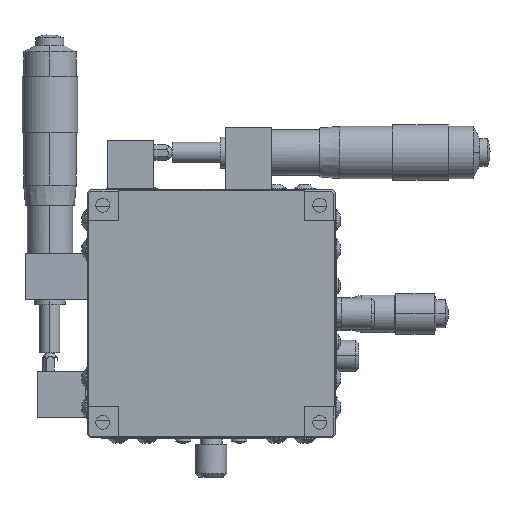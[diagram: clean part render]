
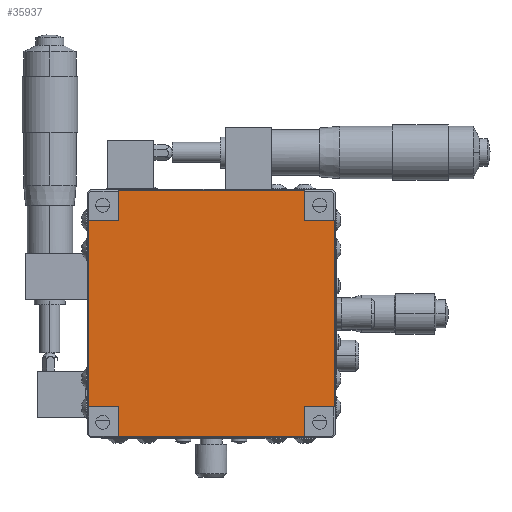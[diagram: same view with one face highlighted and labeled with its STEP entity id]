
A CAD part, front view. The second image highlights one B-rep face of the part: STEP entity #35937.
In plain terms, the highlighted planar face has unit normal (0, -1, 0).
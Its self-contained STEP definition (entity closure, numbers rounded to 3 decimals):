
#731 = CARTESIAN_POINT ( 'NONE',  ( 22.855, -46.276, 146.465 ) ) ;
#921 = ORIENTED_EDGE ( 'NONE', *, *, #16764, .T. ) ;
#1090 = VERTEX_POINT ( 'NONE', #3333 ) ;
#1506 = LINE ( 'NONE', #2121, #8911 ) ;
#1519 = CARTESIAN_POINT ( 'NONE',  ( -46.845, -46.276, 86.465 ) ) ;
#1719 = DIRECTION ( 'NONE',  ( -1., 0., 0. ) ) ;
#1738 = VECTOR ( 'NONE', #38387, 1000. ) ;
#2121 = CARTESIAN_POINT ( 'NONE',  ( -46.845, -46.276, 156.165 ) ) ;
#2332 = LINE ( 'NONE', #35000, #31021 ) ;
#2345 = CARTESIAN_POINT ( 'NONE',  ( 13.155, -46.276, 156.165 ) ) ;
#3333 = CARTESIAN_POINT ( 'NONE',  ( -56.545, -46.276, 86.465 ) ) ;
#3420 = CARTESIAN_POINT ( 'NONE',  ( -56.545, -46.276, 146.465 ) ) ;
#3562 = ORIENTED_EDGE ( 'NONE', *, *, #23440, .T. ) ;
#4102 = FACE_OUTER_BOUND ( 'NONE', #21209, .T. ) ;
#4343 = CARTESIAN_POINT ( 'NONE',  ( 13.155, -46.276, 86.465 ) ) ;
#4485 = LINE ( 'NONE', #30431, #11387 ) ;
#4684 = VERTEX_POINT ( 'NONE', #31806 ) ;
#4797 = ORIENTED_EDGE ( 'NONE', *, *, #10981, .T. ) ;
#5927 = LINE ( 'NONE', #40050, #30183 ) ;
#6180 = DIRECTION ( 'NONE',  ( 0., 0., -1. ) ) ;
#6597 = ORIENTED_EDGE ( 'NONE', *, *, #9364, .T. ) ;
#7359 = ORIENTED_EDGE ( 'NONE', *, *, #20374, .T. ) ;
#7371 = LINE ( 'NONE', #27068, #22247 ) ;
#7408 = VERTEX_POINT ( 'NONE', #731 ) ;
#7647 = VECTOR ( 'NONE', #32681, 1000. ) ;
#8911 = VECTOR ( 'NONE', #17799, 1000. ) ;
#9014 = CARTESIAN_POINT ( 'NONE',  ( 13.155, -46.276, 76.765 ) ) ;
#9034 = VERTEX_POINT ( 'NONE', #4343 ) ;
#9364 = EDGE_CURVE ( 'NONE', #12962, #13019, #40395, .T. ) ;
#10586 = EDGE_CURVE ( 'NONE', #25982, #9034, #13627, .T. ) ;
#10866 = VERTEX_POINT ( 'NONE', #33105 ) ;
#10888 = CARTESIAN_POINT ( 'NONE',  ( 13.155, -46.276, 156.165 ) ) ;
#10981 = EDGE_CURVE ( 'NONE', #7408, #25817, #36396, .T. ) ;
#11284 = DIRECTION ( 'NONE',  ( 1., 0., 0. ) ) ;
#11387 = VECTOR ( 'NONE', #21477, 1000. ) ;
#11737 = EDGE_CURVE ( 'NONE', #25817, #28626, #26924, .T. ) ;
#12287 = DIRECTION ( 'NONE',  ( 0., -1., 0. ) ) ;
#12691 = VERTEX_POINT ( 'NONE', #1519 ) ;
#12962 = VERTEX_POINT ( 'NONE', #24726 ) ;
#13019 = VERTEX_POINT ( 'NONE', #3420 ) ;
#13627 = LINE ( 'NONE', #39793, #21075 ) ;
#14148 = EDGE_CURVE ( 'NONE', #13019, #1090, #5927, .T. ) ;
#14167 = EDGE_CURVE ( 'NONE', #4684, #12962, #1506, .T. ) ;
#14752 = DIRECTION ( 'NONE',  ( 0., 0., 1. ) ) ;
#15507 = PLANE ( 'NONE',  #36556 ) ;
#15760 = ORIENTED_EDGE ( 'NONE', *, *, #21600, .T. ) ;
#16355 = EDGE_CURVE ( 'NONE', #10866, #25982, #2332, .T. ) ;
#16693 = VECTOR ( 'NONE', #27498, 1000. ) ;
#16764 = EDGE_CURVE ( 'NONE', #9034, #36947, #37983, .T. ) ;
#17799 = DIRECTION ( 'NONE',  ( 0., 0., -1. ) ) ;
#17915 = CARTESIAN_POINT ( 'NONE',  ( 22.855, -46.276, 86.465 ) ) ;
#19933 = VECTOR ( 'NONE', #20833, 1000. ) ;
#20374 = EDGE_CURVE ( 'NONE', #28626, #4684, #38227, .T. ) ;
#20432 = EDGE_CURVE ( 'NONE', #12691, #10866, #29760, .T. ) ;
#20833 = DIRECTION ( 'NONE',  ( 0., 0., -1. ) ) ;
#21075 = VECTOR ( 'NONE', #14752, 1000. ) ;
#21209 = EDGE_LOOP ( 'NONE', ( #6597, #33242, #3562, #38284, #28168, #23765, #921, #15760, #4797, #34398, #7359, #25129 ) ) ;
#21477 = DIRECTION ( 'NONE',  ( 0., 0., 1. ) ) ;
#21600 = EDGE_CURVE ( 'NONE', #36947, #7408, #4485, .T. ) ;
#22247 = VECTOR ( 'NONE', #11284, 1000. ) ;
#23324 = VECTOR ( 'NONE', #1719, 1000. ) ;
#23440 = EDGE_CURVE ( 'NONE', #1090, #12691, #7371, .T. ) ;
#23765 = ORIENTED_EDGE ( 'NONE', *, *, #10586, .T. ) ;
#23830 = CARTESIAN_POINT ( 'NONE',  ( 22.855, -46.276, 156.165 ) ) ;
#23837 = DIRECTION ( 'NONE',  ( 0., 0., -1. ) ) ;
#24365 = CARTESIAN_POINT ( 'NONE',  ( 13.155, -46.276, 146.465 ) ) ;
#24726 = CARTESIAN_POINT ( 'NONE',  ( -46.845, -46.276, 146.465 ) ) ;
#25129 = ORIENTED_EDGE ( 'NONE', *, *, #14167, .T. ) ;
#25566 = DIRECTION ( 'NONE',  ( 1., 0., 0. ) ) ;
#25817 = VERTEX_POINT ( 'NONE', #24365 ) ;
#25982 = VERTEX_POINT ( 'NONE', #9014 ) ;
#26924 = LINE ( 'NONE', #10888, #27394 ) ;
#27068 = CARTESIAN_POINT ( 'NONE',  ( 22.855, -46.276, 86.465 ) ) ;
#27394 = VECTOR ( 'NONE', #29558, 1000. ) ;
#27498 = DIRECTION ( 'NONE',  ( 1., 0., 0. ) ) ;
#28168 = ORIENTED_EDGE ( 'NONE', *, *, #16355, .T. ) ;
#28626 = VERTEX_POINT ( 'NONE', #2345 ) ;
#29558 = DIRECTION ( 'NONE',  ( 0., 0., 1. ) ) ;
#29760 = LINE ( 'NONE', #33266, #19933 ) ;
#29890 = CARTESIAN_POINT ( 'NONE',  ( 22.855, -46.276, 146.465 ) ) ;
#30183 = VECTOR ( 'NONE', #23837, 1000. ) ;
#30431 = CARTESIAN_POINT ( 'NONE',  ( 22.855, -46.276, 156.165 ) ) ;
#31021 = VECTOR ( 'NONE', #25566, 1000. ) ;
#31216 = CARTESIAN_POINT ( 'NONE',  ( 22.855, -46.276, 156.165 ) ) ;
#31806 = CARTESIAN_POINT ( 'NONE',  ( -46.845, -46.276, 156.165 ) ) ;
#32681 = DIRECTION ( 'NONE',  ( -1., 0., 0. ) ) ;
#33105 = CARTESIAN_POINT ( 'NONE',  ( -46.845, -46.276, 76.765 ) ) ;
#33242 = ORIENTED_EDGE ( 'NONE', *, *, #14148, .T. ) ;
#33266 = CARTESIAN_POINT ( 'NONE',  ( -46.845, -46.276, 156.165 ) ) ;
#33595 = CARTESIAN_POINT ( 'NONE',  ( 22.855, -46.276, 86.465 ) ) ;
#34398 = ORIENTED_EDGE ( 'NONE', *, *, #11737, .T. ) ;
#34622 = CARTESIAN_POINT ( 'NONE',  ( 22.855, -46.276, 146.465 ) ) ;
#35000 = CARTESIAN_POINT ( 'NONE',  ( 22.855, -46.276, 76.765 ) ) ;
#35937 = ADVANCED_FACE ( 'NONE', ( #4102 ), #15507, .T. ) ;
#36396 = LINE ( 'NONE', #29890, #7647 ) ;
#36556 = AXIS2_PLACEMENT_3D ( 'NONE', #31216, #12287, #6180 ) ;
#36947 = VERTEX_POINT ( 'NONE', #17915 ) ;
#37983 = LINE ( 'NONE', #33595, #16693 ) ;
#38227 = LINE ( 'NONE', #23830, #23324 ) ;
#38284 = ORIENTED_EDGE ( 'NONE', *, *, #20432, .T. ) ;
#38387 = DIRECTION ( 'NONE',  ( -1., 0., 0. ) ) ;
#39793 = CARTESIAN_POINT ( 'NONE',  ( 13.155, -46.276, 156.165 ) ) ;
#40050 = CARTESIAN_POINT ( 'NONE',  ( -56.545, -46.276, 156.165 ) ) ;
#40395 = LINE ( 'NONE', #34622, #1738 ) ;
